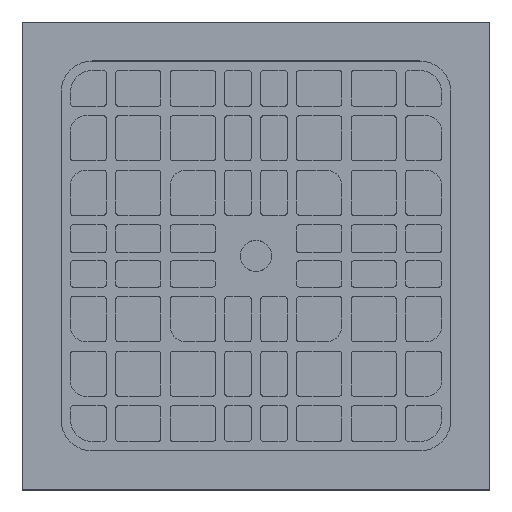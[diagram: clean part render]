
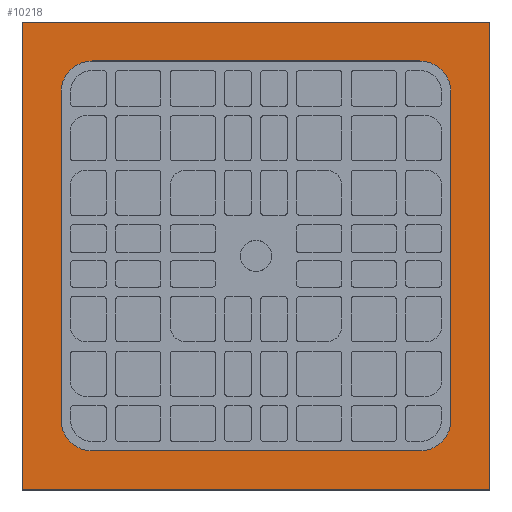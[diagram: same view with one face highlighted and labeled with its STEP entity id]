
A CAD part, top view. The second image highlights one B-rep face of the part: STEP entity #10218.
In plain terms, the highlighted planar face has unit normal (0, 0, 1).
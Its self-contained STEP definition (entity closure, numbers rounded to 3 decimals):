
#76=FACE_BOUND('',#1501,.T.);
#324=PLANE('',#11280);
#881=FACE_OUTER_BOUND('',#1500,.T.);
#1500=EDGE_LOOP('',(#8962,#8963,#8964,#8965));
#1501=EDGE_LOOP('',(#8966,#8967,#8968,#8969,#8970,#8971,#8972,#8973));
#2534=LINE('',#17365,#3524);
#2539=LINE('',#17379,#3529);
#2543=LINE('',#17391,#3533);
#2547=LINE('',#17403,#3537);
#2550=LINE('',#17416,#3540);
#2551=LINE('',#17418,#3541);
#2552=LINE('',#17420,#3542);
#2553=LINE('',#17421,#3543);
#3524=VECTOR('',#14238,10.);
#3529=VECTOR('',#14251,10.);
#3533=VECTOR('',#14263,10.);
#3537=VECTOR('',#14275,10.);
#3540=VECTOR('',#14290,10.);
#3541=VECTOR('',#14291,10.);
#3542=VECTOR('',#14292,10.);
#3543=VECTOR('',#14293,10.);
#4034=CIRCLE('',#11264,20.);
#4036=CIRCLE('',#11268,20.);
#4038=CIRCLE('',#11272,20.);
#4040=CIRCLE('',#11276,20.);
#5007=VERTEX_POINT('',#17363);
#5008=VERTEX_POINT('',#17364);
#5011=VERTEX_POINT('',#17372);
#5013=VERTEX_POINT('',#17378);
#5015=VERTEX_POINT('',#17384);
#5017=VERTEX_POINT('',#17390);
#5019=VERTEX_POINT('',#17396);
#5021=VERTEX_POINT('',#17402);
#5024=VERTEX_POINT('',#17414);
#5025=VERTEX_POINT('',#17415);
#5026=VERTEX_POINT('',#17417);
#5027=VERTEX_POINT('',#17419);
#6477=EDGE_CURVE('',#5007,#5008,#2534,.T.);
#6481=EDGE_CURVE('',#5011,#5007,#4034,.T.);
#6484=EDGE_CURVE('',#5013,#5011,#2539,.T.);
#6487=EDGE_CURVE('',#5015,#5013,#4036,.T.);
#6490=EDGE_CURVE('',#5017,#5015,#2543,.T.);
#6493=EDGE_CURVE('',#5019,#5017,#4038,.T.);
#6496=EDGE_CURVE('',#5021,#5019,#2547,.T.);
#6499=EDGE_CURVE('',#5008,#5021,#4040,.T.);
#6502=EDGE_CURVE('',#5024,#5025,#2550,.T.);
#6503=EDGE_CURVE('',#5025,#5026,#2551,.T.);
#6504=EDGE_CURVE('',#5026,#5027,#2552,.T.);
#6505=EDGE_CURVE('',#5027,#5024,#2553,.T.);
#8962=ORIENTED_EDGE('',*,*,#6502,.T.);
#8963=ORIENTED_EDGE('',*,*,#6503,.T.);
#8964=ORIENTED_EDGE('',*,*,#6504,.T.);
#8965=ORIENTED_EDGE('',*,*,#6505,.T.);
#8966=ORIENTED_EDGE('',*,*,#6477,.T.);
#8967=ORIENTED_EDGE('',*,*,#6499,.T.);
#8968=ORIENTED_EDGE('',*,*,#6496,.T.);
#8969=ORIENTED_EDGE('',*,*,#6493,.T.);
#8970=ORIENTED_EDGE('',*,*,#6490,.T.);
#8971=ORIENTED_EDGE('',*,*,#6487,.T.);
#8972=ORIENTED_EDGE('',*,*,#6484,.T.);
#8973=ORIENTED_EDGE('',*,*,#6481,.T.);
#10218=ADVANCED_FACE('',(#881,#76),#324,.T.);
#11264=AXIS2_PLACEMENT_3D('',#17373,#14244,#14245);
#11268=AXIS2_PLACEMENT_3D('',#17385,#14256,#14257);
#11272=AXIS2_PLACEMENT_3D('',#17397,#14268,#14269);
#11276=AXIS2_PLACEMENT_3D('',#17408,#14280,#14281);
#11280=AXIS2_PLACEMENT_3D('',#17413,#14288,#14289);
#14238=DIRECTION('',(0.,1.,0.));
#14244=DIRECTION('center_axis',(0.,0.,-1.));
#14245=DIRECTION('ref_axis',(-1.,0.,0.));
#14251=DIRECTION('',(-1.,0.,0.));
#14256=DIRECTION('center_axis',(0.,0.,-1.));
#14257=DIRECTION('ref_axis',(0.,-1.,0.));
#14263=DIRECTION('',(0.,-1.,0.));
#14268=DIRECTION('center_axis',(0.,0.,-1.));
#14269=DIRECTION('ref_axis',(1.,0.,0.));
#14275=DIRECTION('',(1.,0.,0.));
#14280=DIRECTION('center_axis',(0.,0.,-1.));
#14281=DIRECTION('ref_axis',(0.,1.,0.));
#14288=DIRECTION('center_axis',(0.,0.,1.));
#14289=DIRECTION('ref_axis',(1.,0.,0.));
#14290=DIRECTION('',(1.,0.,0.));
#14291=DIRECTION('',(0.,1.,0.));
#14292=DIRECTION('',(-1.,0.,0.));
#14293=DIRECTION('',(0.,-1.,0.));
#17363=CARTESIAN_POINT('',(25.,-255.,25.));
#17364=CARTESIAN_POINT('',(25.,-45.,25.));
#17365=CARTESIAN_POINT('',(25.,-202.5,25.));
#17372=CARTESIAN_POINT('',(45.,-275.,25.));
#17373=CARTESIAN_POINT('Origin',(45.,-255.,25.));
#17378=CARTESIAN_POINT('',(255.,-275.,25.));
#17379=CARTESIAN_POINT('',(202.5,-275.,25.));
#17384=CARTESIAN_POINT('',(275.,-255.,25.));
#17385=CARTESIAN_POINT('Origin',(255.,-255.,25.));
#17390=CARTESIAN_POINT('',(275.,-45.,25.));
#17391=CARTESIAN_POINT('',(275.,-97.5,25.));
#17396=CARTESIAN_POINT('',(255.,-25.,25.));
#17397=CARTESIAN_POINT('Origin',(255.,-45.,25.));
#17402=CARTESIAN_POINT('',(45.,-25.,25.));
#17403=CARTESIAN_POINT('',(97.5,-25.,25.));
#17408=CARTESIAN_POINT('Origin',(45.,-45.,25.));
#17413=CARTESIAN_POINT('Origin',(150.,-150.,25.));
#17414=CARTESIAN_POINT('',(0.,-300.,25.));
#17415=CARTESIAN_POINT('',(300.,-300.,25.));
#17416=CARTESIAN_POINT('',(300.,-300.,25.));
#17417=CARTESIAN_POINT('',(300.,0.,25.));
#17418=CARTESIAN_POINT('',(300.,0.,25.));
#17419=CARTESIAN_POINT('',(0.,0.,25.));
#17420=CARTESIAN_POINT('',(0.,0.,25.));
#17421=CARTESIAN_POINT('',(0.,-300.,25.));
